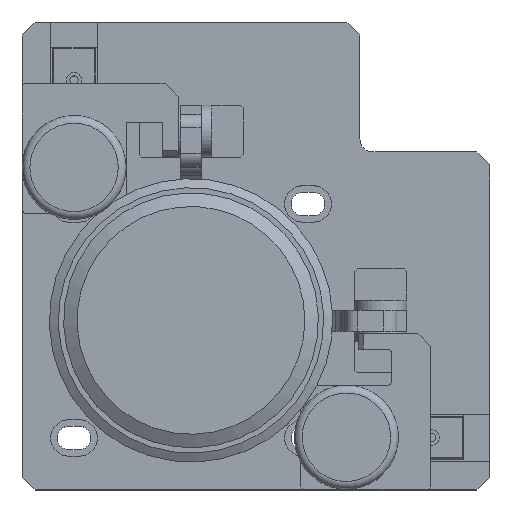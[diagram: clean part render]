
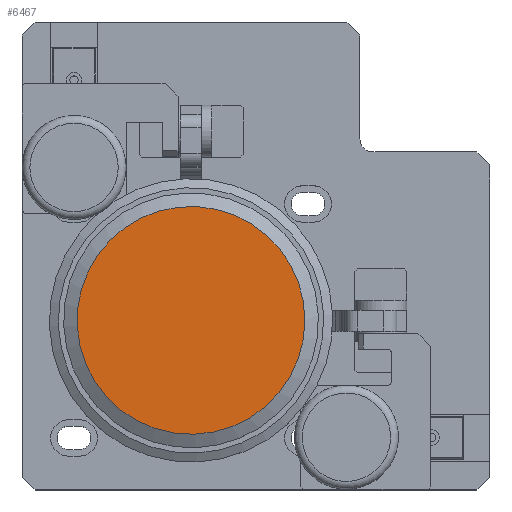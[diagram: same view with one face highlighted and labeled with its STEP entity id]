
A CAD part, top view. The second image highlights one B-rep face of the part: STEP entity #6467.
In plain terms, the highlighted planar face has unit normal (0, 0, 1).
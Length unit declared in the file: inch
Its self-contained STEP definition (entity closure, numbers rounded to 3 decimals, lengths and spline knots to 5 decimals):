
#1613=FACE_OUTER_BOUND('',#2019,.T.);
#2019=EDGE_LOOP('',(#4118));
#2505=CIRCLE('',#6911,1.72456);
#2702=VERTEX_POINT('',#9382);
#3251=EDGE_CURVE('',#2702,#2702,#2505,.T.);
#4118=ORIENTED_EDGE('',*,*,#3251,.T.);
#5764=PLANE('',#6912);
#6467=ADVANCED_FACE('',(#1613),#5764,.T.);
#6911=AXIS2_PLACEMENT_3D('',#9383,#7550,#7551);
#6912=AXIS2_PLACEMENT_3D('',#9384,#7552,#7553);
#7550=DIRECTION('center_axis',(0.,0.,
1.));
#7551=DIRECTION('ref_axis',(-0.924,-0.381,0.));
#7552=DIRECTION('center_axis',(0.,0.,
1.));
#7553=DIRECTION('ref_axis',(-0.924,-0.381,0.));
#9382=CARTESIAN_POINT('',(-1.91219,0.15402,5.27559));
#9383=CARTESIAN_POINT('Origin',(-3.63675,0.15402,5.27559));
#9384=CARTESIAN_POINT('Origin',(-3.63675,0.15402,5.27559));
